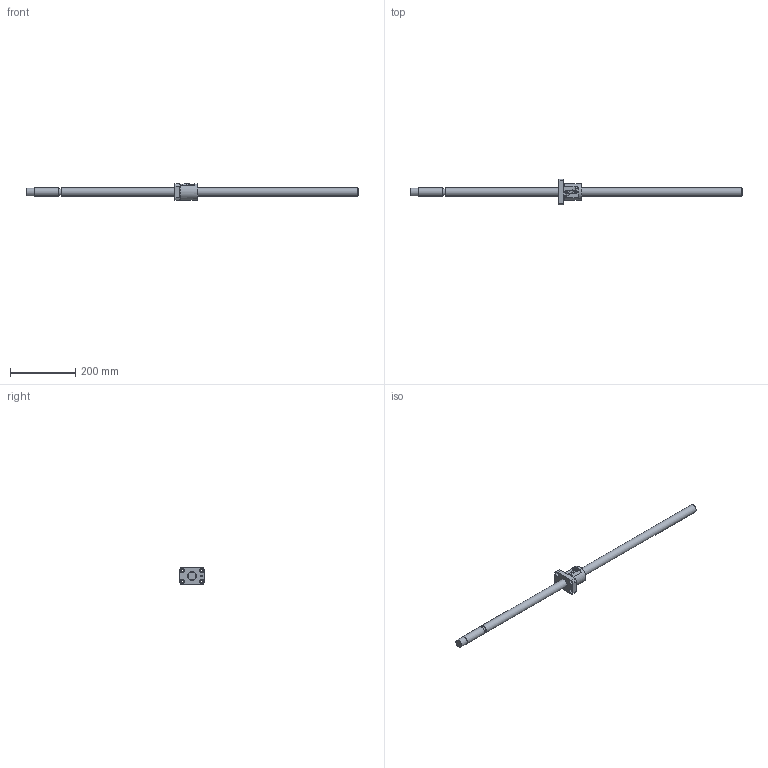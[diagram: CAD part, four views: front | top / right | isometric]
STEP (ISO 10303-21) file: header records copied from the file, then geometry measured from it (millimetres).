
FILE_DESCRIPTION((''),'2;1');
FILE_NAME('D:\製品 (図面)\カタログ用3D\ネジ関連\STEP形式\KBS(C)\KBS(C)2520-1020.stp','2010-06-02T14:21:16',('Tsuchiya'),(''),'Autodesk Inventor 10','Autodesk Inventor 10','');
FILE_SCHEMA(('AUTOMOTIVE_DESIGN { 1 0 10303 214 1 1 1 1 }'));
Length unit declared in the file: millimetre
Products named in the file (3): KBS(C)2520-1020; KBS(C)2520-10201; KBS(C)2520-10202
Assembly tree (2 placements, depth 2):
  KBS(C)2520-1020
    KBS(C)2520-10201
    KBS(C)2520-10202
Bounding box: 1020 x 78 x 52 mm (x, y, z)
Volume: 627476 mm3; surface area: 109426 mm2
Topology: 2 solids, 2 shells, 103 faces, 260 edges, 171 vertices
Faces by surface type: plane 42, cylinder 35, bspline 20, cone 4, torus 2
Full cylindrical faces by diameter (mm): 4.8 x1, 6 x1, 7.4 x1, 9 x4, 14 x4, 21 x1, 24.5 x1, 25 x3, 27 x2, 52 x1
Entity records: 3299 total; most frequent: CARTESIAN_POINT 928, DIRECTION 448, ORIENTED_EDGE 448, EDGE_CURVE 224, AXIS2_PLACEMENT_3D 168, VERTEX_POINT 164, EDGE_LOOP 158, VECTOR 112
